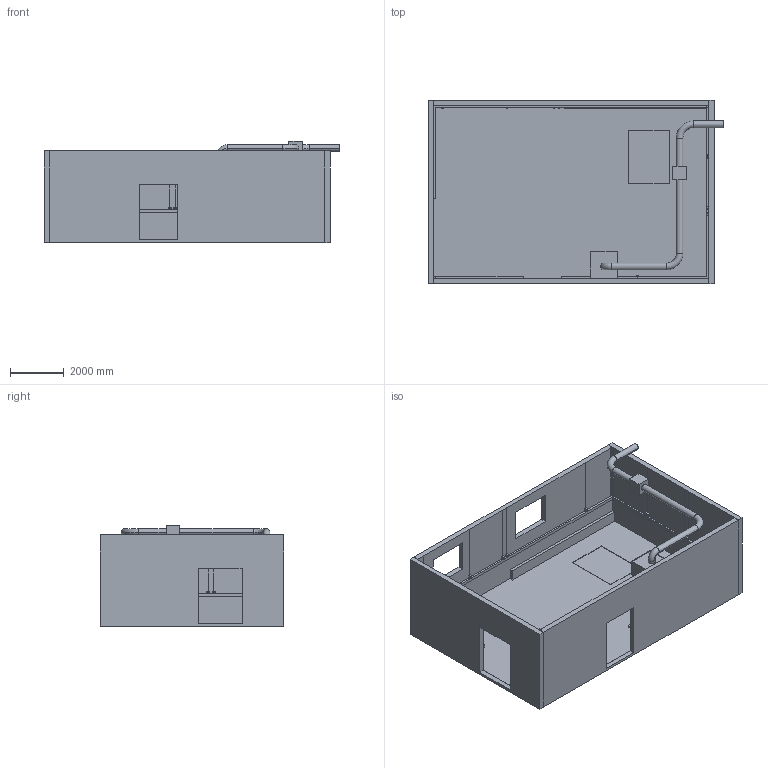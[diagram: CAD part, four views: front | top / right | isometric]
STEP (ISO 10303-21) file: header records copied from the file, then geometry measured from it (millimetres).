
FILE_DESCRIPTION(('CATIA V5 STEP Exchange'),'2;1');
FILE_NAME('E:\OneDrive\1_WORK\PROJET\RENOVATION_SALLES_020_010\0_CAO_Salles_Expes\Salle020_CASTEX\26_11_Salle020_En-l-Etat\Salle_020_En-l-Etat.stp','2026-02-11T12:52:56+00:00',('none'),('none'),'CATIA Version 5 Release 21 GA (IN-10)','CATIA V5 STEP AP203','none');
FILE_SCHEMA(('CONFIG_CONTROL_DESIGN'));
Length unit declared in the file: millimetre
Products named in the file (2): Salle_020_CASTEX; Electricite_Existante
Assembly tree (13 placements, depth 3):
  Salle_020_CASTEX
    #58
    Electricite_Existante
      #1649
      #2368  x5
      #2701  x2
      #3094  x2
    #3470
Bounding box: 10944.98 x 6810 x 3750 mm (x, y, z)
Volume: 28388568786.4 mm3; surface area: 407370402.9 mm2
Topology: 35 solids, 36 shells, 261 faces, 521 edges, 338 vertices
Faces by surface type: plane 193, cylinder 56, torus 12
Entity records: 4675 total; most frequent: CARTESIAN_POINT 780, ORIENTED_EDGE 754, DIRECTION 699, EDGE_CURVE 377, VECTOR 301, LINE 301, VERTEX_POINT 242, AXIS2_PLACEMENT_3D 237
